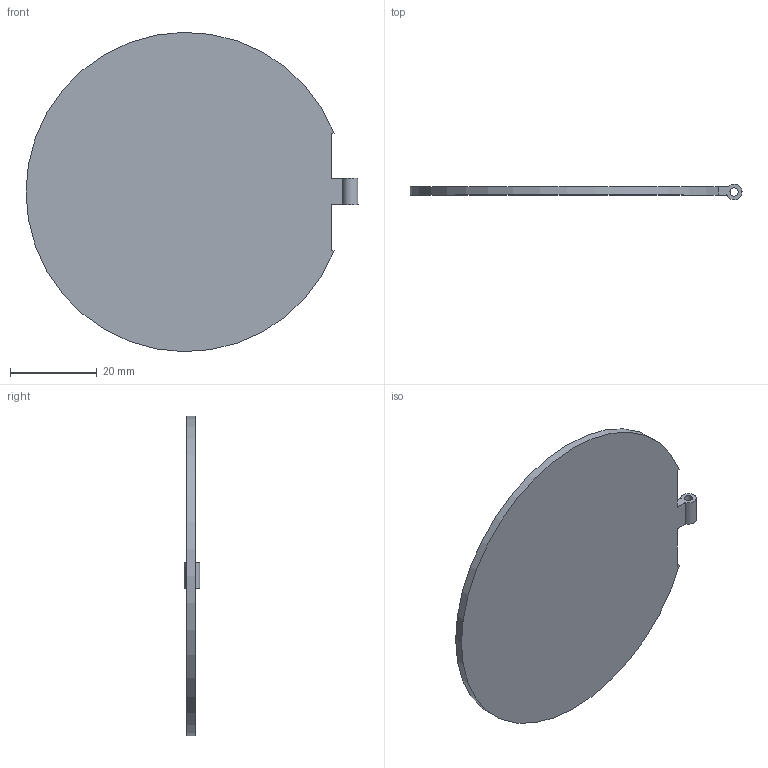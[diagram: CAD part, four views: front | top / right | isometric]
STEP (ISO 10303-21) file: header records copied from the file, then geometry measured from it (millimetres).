
FILE_DESCRIPTION(/* description */ ('STEP AP242 Edition 2','CAx-IF Rec.Pracs.---Representation and Presentation of Product Manufacturing Information (PMI)---4.0---2014-10-13','CAx-IF Rec.Pracs.---3D Tessellated Geometry---0.4---2014-09-14','2;1','CAx-IF Rec.Pracs.---User Defined Attributes---1.5---2016-08-15'),/* implementation_level */ '2;1');
FILE_NAME(/* name */ 'Assembly 1 - Part 1 (2)',/* time_stamp */ '2026-04-30T00:36:45Z',/* author */ (''),/* organization */ (''),/* preprocessor_version */ 'ST-DEVELOPER v20',/* originating_system */ 'ONSHAPE BY PTC INC, 1.214',/* authorisation */ ' ');
FILE_SCHEMA (('AP242_MANAGED_MODEL_BASED_3D_ENGINEERING_MIM_LF { 1 0 10303 442 3 1 4 }'));
Length unit declared in the file: metre
Products named in the file (1): Part 1
Bounding box: 76.58 x 3.65 x 73.65 mm (x, y, z)
Volume: 8071.8 mm3; surface area: 8980.6 mm2
Topology: 1 solids, 1 shells, 13 faces, 33 edges, 22 vertices
Faces by surface type: plane 9, cylinder 4
Full cylindrical faces by diameter (mm): 1.905 x1
Entity records: 416 total; most frequent: CARTESIAN_POINT 71, DIRECTION 66, ORIENTED_EDGE 64, EDGE_CURVE 32, LINE 24, VECTOR 24, VERTEX_POINT 22, AXIS2_PLACEMENT_3D 21
